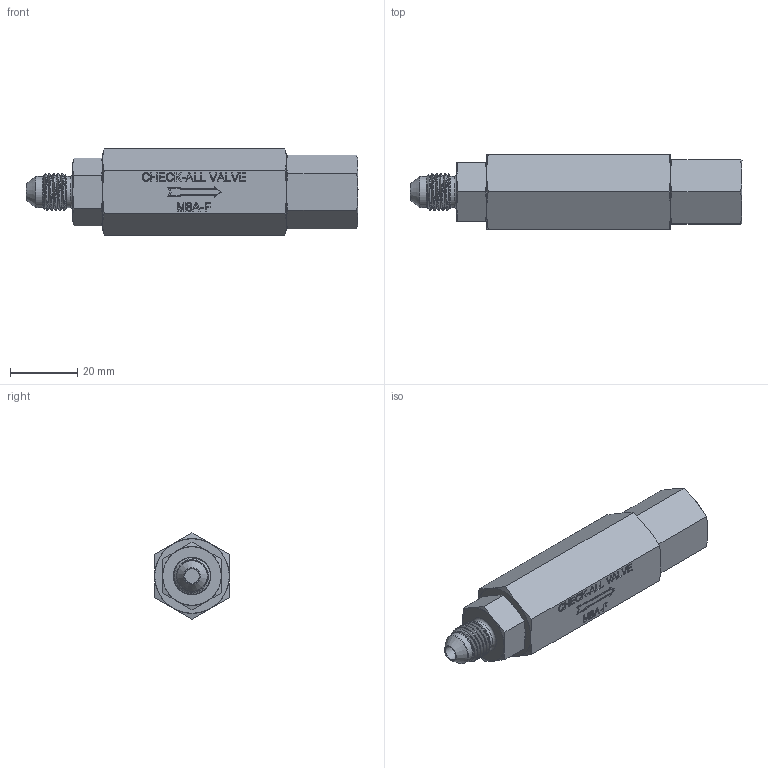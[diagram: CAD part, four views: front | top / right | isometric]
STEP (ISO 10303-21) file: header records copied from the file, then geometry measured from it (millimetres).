
FILE_DESCRIPTION( ( 'Unknown' ), '1' );
FILE_NAME( 'Y:/ENGR/3D Solid Edge Models/M(1-8)/M8/stp/M8A-F.stp', 'Unknown', ( 'Unknown' ), ( 'Unknown' ), 'PSStep 16.0.42', 'Unknown', ' ' );
FILE_SCHEMA( ( 'AUTOMOTIVE_DESIGN { 1 0 10303 214 1 1 1 1 }' ) );
Length unit declared in the file: millimetre
Products named in the file (1): 1
Bounding box: 98.91 x 22.23 x 25.66 mm (x, y, z)
Volume: 31524.6 mm3; surface area: 8521.7 mm2
Topology: 1 solids, 1 shells, 397 faces, 1027 edges, 662 vertices
Faces by surface type: extrusion 156, plane 75, cylinder 71, cone 44, torus 39, bspline 12
Full cylindrical faces by diameter (mm): 4.369 x1, 9.246 x2, 11.113 x2
Entity records: 25876 total; most frequent: CARTESIAN_POINT 13233, ORIENTED_EDGE 1988, DIRECTION 1292, EDGE_CURVE 994, VERTEX_POINT 649, B_SPLINE_CURVE_WITH_KNOTS 608, PRESENTATION_STYLE_ASSIGNMENT 605, COLOUR_RGB 605
